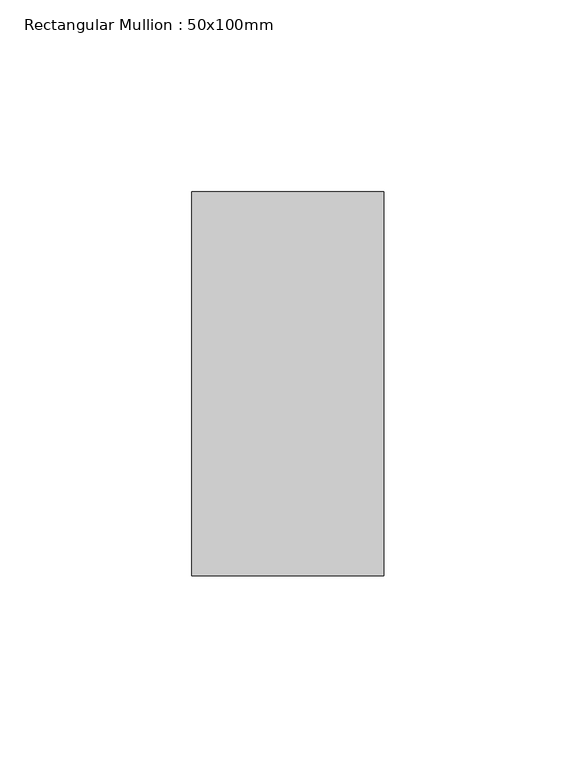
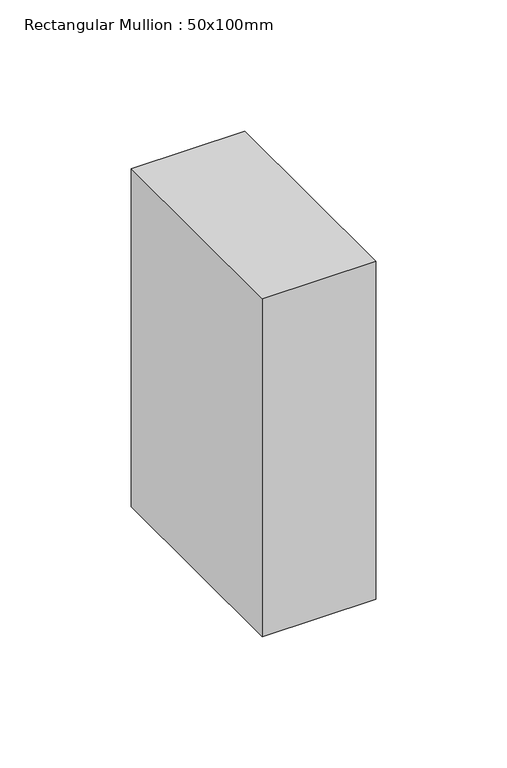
"""IFC4 building model written with IfcOpenShell, lengths in millimetres: member geometry, Rectangular Mullion : 50x100mm."""

import ifcopenshell
import ifcopenshell.guid

model = None  # the IFC model being written
_history = None  # IfcOwnerHistory: only IFC2X3 demands one
_inside = {}  # id of a spatial element -> (the spatial element, [elements in it])
_under = {}  # id of a project, library or spatial element -> (it, [spatial elements below it])
_declared = {}  # id of a project -> (the project, [libraries it declares])
_typed = {}  # id of a type object -> (the type object, [elements of that type])
_made_of = {}  # id of a material, layer set ... -> (it, [elements and type objects made of it])


def new_model(schema):
    """Start an empty IFC model of exactly this schema.

    Asked for "IFC4X3", IfcOpenShell would pick the latest addendum, in which some entities
    have other attributes; the version numbers below select the first issue.
    IFC2X3 requires an IfcOwnerHistory on every rooted entity: one is made here for all.
    """
    global model, _history
    if schema == "IFC4X3":
        model = ifcopenshell.file(schema_version=(4, 3, 0, 0))
    else:
        model = ifcopenshell.file(schema=schema)
    _inside.clear()
    _under.clear()
    _declared.clear()
    _typed.clear()
    _made_of.clear()
    _history = None
    if model.schema == "IFC2X3":
        org = make("IfcOrganization", Name="unknown")
        user = make(
            "IfcPersonAndOrganization",
            ThePerson=make("IfcPerson", FamilyName="unknown"),
            TheOrganization=org,
        )
        app = make(
            "IfcApplication",
            ApplicationDeveloper=org,
            Version="unknown",
            ApplicationFullName="unknown",
            ApplicationIdentifier="unknown",
        )
        _history = make(
            "IfcOwnerHistory",
            OwningUser=user,
            OwningApplication=app,
            ChangeAction="ADDED",
            CreationDate=0,
        )
    return model


def make(cls, **values):
    """One entity of the class cls with the attributes given. An attribute that is None is left unset."""
    return model.create_entity(
        cls, **{name: value for name, value in values.items() if value is not None}
    )


def rooted(cls, **values):
    """An entity with a GlobalId (a new one), such as an element, a storey or a relation."""
    return make(cls, GlobalId=ifcopenshell.guid.new(), OwnerHistory=_history, **values)


def si_unit(unit_type, name, prefix=None):
    """IfcSIUnit, for example si_unit("LENGTHUNIT", "METRE", prefix="MILLI")."""
    return make("IfcSIUnit", UnitType=unit_type, Prefix=prefix, Name=name)


def assignment(units):
    """IfcUnitAssignment: the units of a project."""
    return None if units is None else make("IfcUnitAssignment", Units=units)


def point(xyz):
    """IfcCartesianPoint."""
    return None if xyz is None else make("IfcCartesianPoint", Coordinates=xyz)


def direction(xyz):
    """IfcDirection."""
    return None if xyz is None else make("IfcDirection", DirectionRatios=xyz)


def frame(location, z_axis=None, x_axis=None):
    """IfcAxis2Placement3D, a coordinate frame: its origin and axes. An axis left out is left unset."""
    return make(
        "IfcAxis2Placement3D",
        Location=point(location),
        Axis=direction(z_axis),
        RefDirection=direction(x_axis),
    )


def origin():
    """The frame at (0, 0, 0) with its axes left unset."""
    return frame((0.0, 0.0, 0.0))


def place(relative_to, where):
    """IfcLocalPlacement: puts the frame where relative to a parent placement (None: the world)."""
    return make(
        "IfcLocalPlacement", PlacementRelTo=relative_to, RelativePlacement=where
    )


def context(
    kind, dimensions, precision=None, world=None, true_north=None, identifier=None
):
    """IfcGeometricRepresentationContext, for example the 3D "Model" context."""
    return make(
        "IfcGeometricRepresentationContext",
        ContextIdentifier=identifier,
        ContextType=kind,
        CoordinateSpaceDimension=dimensions,
        Precision=precision,
        WorldCoordinateSystem=world,
        TrueNorth=true_north,
    )


def project(units=None, contexts=None):
    """IfcProject with its units and contexts."""
    return rooted(
        "IfcProject",
        Name="project",
        RepresentationContexts=contexts,
        UnitsInContext=assignment(units),
    )


def spatial(cls, under=None, at=None, **own):
    """A site, building, storey or space (cls), placed at a placement, below another one or the project."""
    s = rooted(cls, ObjectPlacement=at, **own)
    if under is not None:
        _under.setdefault(under.id(), (under, []))[1].append(s)
    return s


def polyline(points):
    """IfcPolyline through the points."""
    return make("IfcPolyline", Points=[point(p) for p in points])


def outline(outer, holes=None, kind="AREA"):
    """IfcArbitraryClosedProfileDef: a profile drawn as a closed curve; with holes, ...WithVoids."""
    if holes is None:
        return make("IfcArbitraryClosedProfileDef", ProfileType=kind, OuterCurve=outer)
    return make(
        "IfcArbitraryProfileDefWithVoids",
        ProfileType=kind,
        OuterCurve=outer,
        InnerCurves=holes,
    )


def extrude(swept, where, along, depth):
    """IfcExtrudedAreaSolid: the profile swept, set in the frame where, extruded along a direction by depth."""
    return make(
        "IfcExtrudedAreaSolid",
        SweptArea=swept,
        Position=where,
        ExtrudedDirection=direction(along),
        Depth=depth,
    )


def shape(context_of_items, identifier, shape_type, items):
    """IfcShapeRepresentation: the items that make up one representation, for example the "Body"."""
    return make(
        "IfcShapeRepresentation",
        ContextOfItems=context_of_items,
        RepresentationIdentifier=identifier,
        RepresentationType=shape_type,
        Items=items,
    )


def source(mapping_origin, context_of_items, identifier, shape_type, items):
    """IfcRepresentationMap: a shape defined once, which mapped items show again and again."""
    return make(
        "IfcRepresentationMap",
        MappingOrigin=mapping_origin,
        MappedRepresentation=shape(context_of_items, identifier, shape_type, items),
    )


def transform(
    local_origin,
    x_axis=None,
    y_axis=None,
    z_axis=None,
    scale=None,
    scale2=None,
    scale3=None,
    uniform=True,
):
    """IfcCartesianTransformationOperator3D, or its non-uniform kind. x_axis, y_axis, z_axis: its Axis1, 2, 3."""
    if uniform:
        return make(
            "IfcCartesianTransformationOperator3D",
            Axis1=direction(x_axis),
            Axis2=direction(y_axis),
            LocalOrigin=point(local_origin),
            Scale=scale,
            Axis3=direction(z_axis),
        )
    return make(
        "IfcCartesianTransformationOperator3DnonUniform",
        Axis1=direction(x_axis),
        Axis2=direction(y_axis),
        LocalOrigin=point(local_origin),
        Scale=scale,
        Axis3=direction(z_axis),
        Scale2=scale2,
        Scale3=scale3,
    )


def mapped(mapping_source, mapping_target):
    """IfcMappedItem: shows the shape of a source again, moved by a transform."""
    return make(
        "IfcMappedItem", MappingSource=mapping_source, MappingTarget=mapping_target
    )


def made_of(thing, what):
    """Note that an element or type object is made of a material, layer set ...; save() writes the relation."""
    if what is not None:
        _made_of.setdefault(what.id(), (what, []))[1].append(thing)
    return thing


def element(
    cls,
    number,
    at=None,
    inside=None,
    cuts=None,
    type_object=None,
    material=None,
    context=None,
    identifier="Body",
    shape_type=None,
    held_by="IfcProductDefinitionShape",
    body=None,
    shapes=None,
    **own,
):
    """One element of the class cls, such as IfcWall. Its Tag is "e" and its number.

    at: its placement. inside: the storey or other place that contains it. cuts: it is an
    opening in that element (IfcRelVoidsElement). A single representation is given by context,
    identifier, shape_type and body (its items); several are given by shapes. held_by: the class
    of the entity that holds the representations. save() writes the other relations.
    """
    e = rooted(cls, Tag="e%d" % number, ObjectPlacement=at, **own)
    if body is not None:
        shapes = [shape(context, identifier, shape_type, body)]
    if shapes is not None:
        e.Representation = make(held_by, Representations=shapes)
    if inside is not None:
        _inside.setdefault(inside.id(), (inside, []))[1].append(e)
    if cuts is not None:
        rooted(
            "IfcRelVoidsElement", RelatingBuildingElement=cuts, RelatedOpeningElement=e
        )
    if type_object is not None:
        _typed.setdefault(type_object.id(), (type_object, []))[1].append(e)
    return made_of(e, material)


def aggregate(whole, parts):
    """IfcRelAggregates: a whole, such as a stair, and the parts it consists of."""
    return rooted("IfcRelAggregates", RelatingObject=whole, RelatedObjects=parts)


def save(model, path):
    """Write the relations noted so far, then the file.

    IfcRelAggregates (storeys below a building ...), IfcRelContainedInSpatialStructure (elements
    in a storey), IfcRelDefinesByType, IfcRelAssociatesMaterial and IfcRelDeclares: one each for
    every whole, place, type object, material and project.
    """
    for whole, parts in _under.values():
        aggregate(whole, parts)
    for where, things in _inside.values():
        rooted(
            "IfcRelContainedInSpatialStructure",
            RelatedElements=things,
            RelatingStructure=where,
        )
    for kind, things in _typed.values():
        rooted("IfcRelDefinesByType", RelatedObjects=things, RelatingType=kind)
    for what, things in _made_of.values():
        rooted("IfcRelAssociatesMaterial", RelatedObjects=things, RelatingMaterial=what)
    for by, libraries in _declared.values():
        rooted("IfcRelDeclares", RelatingContext=by, RelatedDefinitions=libraries)
    model.write(path)


def rectangular_mullion_50x100mm_5dc4cebb(model_context):
    return source(origin(), model_context, "Body", "SweptSolid", [
        extrude(outline(polyline([(0.0, 50.0), (0.0, -50.0), (-50.0, -50.0), (-50.0, 50.0), (0.0, 50.0)])), frame((0.0, 0.0, -157.3333333), z_axis=(0.0, 0.0, 1.0), x_axis=(1.0, 0.0, 0.0)), (0.0, 0.0, 1.0), 157.3333333),
    ])


if __name__ == "__main__":
    model = new_model("IFC4")
    model_context = context("Model", 3, world=origin())
    ifc_project = project(units=[si_unit("LENGTHUNIT", "METRE", prefix="MILLI")], contexts=[model_context])
    site = spatial("IfcSite", under=ifc_project)
    building = spatial("IfcBuilding", under=site)
    placement = place(None, origin())
    rectangular_mullion_50x100mm_shape = rectangular_mullion_50x100mm_5dc4cebb(model_context)
    element("IfcMember", 1, ObjectType="Rectangular Mullion : 50x100mm", at=placement, inside=building, context=model_context, shape_type="MappedRepresentation", body=[
        mapped(rectangular_mullion_50x100mm_shape, transform((0.0, 0.0, 0.0), x_axis=(1.0, 0.0, 0.0), y_axis=(0.0, 1.0, 0.0), z_axis=(0.0, 0.0, 1.0))),
    ])
    save(model, "model.ifc")
